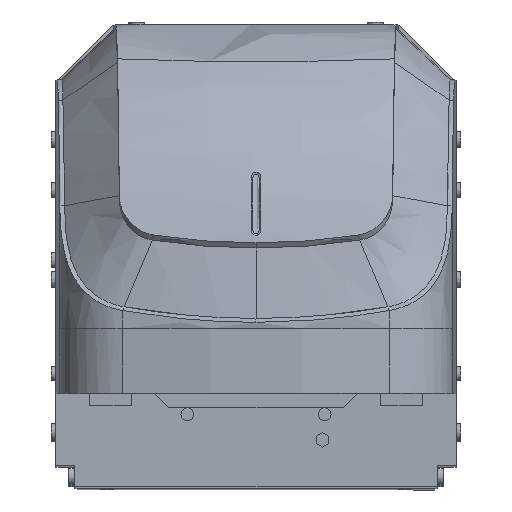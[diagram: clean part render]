
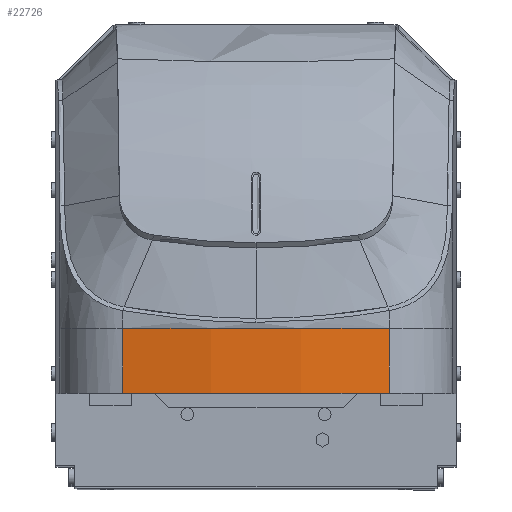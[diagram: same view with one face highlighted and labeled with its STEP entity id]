
A CAD part, top view. The second image highlights one B-rep face of the part: STEP entity #22726.
In plain terms, the highlighted cylindrical face has radius 300 mm (diameter 600 mm), a partial arc.
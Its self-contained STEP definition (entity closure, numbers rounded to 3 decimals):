
#1383 = VERTEX_POINT ( 'NONE', #24422 ) ;
#1450 = CARTESIAN_POINT ( 'NONE',  ( -30.218, 2.5, 47.303 ) ) ;
#1655 = DIRECTION ( 'NONE',  ( 0., 1., 0. ) ) ;
#3555 = VERTEX_POINT ( 'NONE', #4351 ) ;
#4351 = CARTESIAN_POINT ( 'NONE',  ( 86.158, 0., 47.303 ) ) ;
#5413 = VERTEX_POINT ( 'NONE', #20973 ) ;
#5597 = LINE ( 'NONE', #1450, #18476 ) ;
#5727 = CARTESIAN_POINT ( 'NONE',  ( 86.158, 2.5, 47.303 ) ) ;
#6209 = DIRECTION ( 'NONE',  ( 0., 0., 1. ) ) ;
#6228 = DIRECTION ( 'NONE',  ( 0., 1., 0. ) ) ;
#6606 = EDGE_CURVE ( 'NONE', #1383, #5413, #12634, .T. ) ;
#7583 = CARTESIAN_POINT ( 'NONE',  ( -30.218, 0., 47.303 ) ) ;
#7608 = CARTESIAN_POINT ( 'NONE',  ( 27.97, 28.335, -247. ) ) ;
#8326 = CARTESIAN_POINT ( 'NONE',  ( 27.97, 2.5, -247. ) ) ;
#10134 = CYLINDRICAL_SURFACE ( 'NONE', #22960, 300. ) ;
#10908 = EDGE_CURVE ( 'NONE', #3555, #5413, #23953, .T. ) ;
#11564 = CIRCLE ( 'NONE', #13229, 300. ) ;
#12372 = ORIENTED_EDGE ( 'NONE', *, *, #10908, .T. ) ;
#12634 = CIRCLE ( 'NONE', #13456, 300. ) ;
#13229 = AXIS2_PLACEMENT_3D ( 'NONE', #21493, #25500, #6209 ) ;
#13456 = AXIS2_PLACEMENT_3D ( 'NONE', #7608, #1655, #23643 ) ;
#14606 = EDGE_CURVE ( 'NONE', #19889, #3555, #11564, .T. ) ;
#14613 = EDGE_LOOP ( 'NONE', ( #18978, #24326, #12372, #21826 ) ) ;
#17237 = VECTOR ( 'NONE', #6228, 1000. ) ;
#18043 = DIRECTION ( 'NONE',  ( 0., 1., 0. ) ) ;
#18476 = VECTOR ( 'NONE', #21259, 1000. ) ;
#18978 = ORIENTED_EDGE ( 'NONE', *, *, #24908, .T. ) ;
#19889 = VERTEX_POINT ( 'NONE', #7583 ) ;
#20973 = CARTESIAN_POINT ( 'NONE',  ( 86.158, 28.335, 47.303 ) ) ;
#21259 = DIRECTION ( 'NONE',  ( 0., -1., 0. ) ) ;
#21493 = CARTESIAN_POINT ( 'NONE',  ( 27.97, 0., -247. ) ) ;
#21826 = ORIENTED_EDGE ( 'NONE', *, *, #6606, .F. ) ;
#22054 = DIRECTION ( 'NONE',  ( 0., 0., -1. ) ) ;
#22726 = ADVANCED_FACE ( 'NONE', ( #23991 ), #10134, .T. ) ;
#22960 = AXIS2_PLACEMENT_3D ( 'NONE', #8326, #18043, #22054 ) ;
#23643 = DIRECTION ( 'NONE',  ( 0., 0., -1. ) ) ;
#23953 = LINE ( 'NONE', #5727, #17237 ) ;
#23991 = FACE_OUTER_BOUND ( 'NONE', #14613, .T. ) ;
#24326 = ORIENTED_EDGE ( 'NONE', *, *, #14606, .T. ) ;
#24422 = CARTESIAN_POINT ( 'NONE',  ( -30.218, 28.335, 47.303 ) ) ;
#24908 = EDGE_CURVE ( 'NONE', #1383, #19889, #5597, .T. ) ;
#25500 = DIRECTION ( 'NONE',  ( 0., 1., 0. ) ) ;
